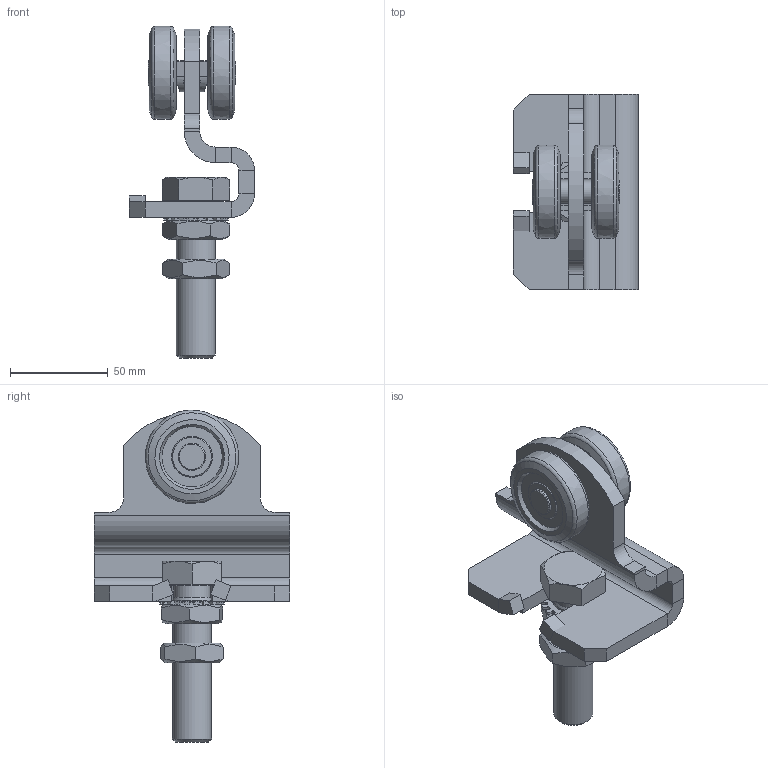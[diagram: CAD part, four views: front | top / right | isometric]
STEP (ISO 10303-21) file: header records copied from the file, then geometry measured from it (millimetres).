
FILE_DESCRIPTION(/* description */ ('Aufhaengehaken zu Einfachrolle Nr.3'),/* implementation_level */ '2;1');
FILE_NAME(/* name */ 'Q:\sge-ma\Produktmanagement-STB\STB\Workspace\stp\010336330.stp',/* time_stamp */ '2016-07-15T10:37:25+02:00',/* author */ ('avschreier'),/* organization */ (''),/* preprocessor_version */ 'ST-DEVELOPER v16.1',/* originating_system */ 'Autodesk Inventor 2016',/* authorisation */ '');
FILE_SCHEMA (('AUTOMOTIVE_DESIGN { 1 0 10303 214 3 1 1 }'));
Length unit declared in the file: millimetre
Products named in the file (8): 337000113; 000303237; 336290030; 000304012; DIN_6798-A_21_en; DIN_EN_ISO_4017-M20x80_en; DIN_EN_ISO_4035-M20_en; 010336330
Assembly tree (10 placements, depth 2):
  010336330
    337000113
    000303237  x2
    336290030  x2
    000304012
    DIN_6798-A_21_en
    DIN_EN_ISO_4017-M20x80_en
    DIN_EN_ISO_4035-M20_en  x2
Bounding box: 64 x 100 x 169.95 mm (x, y, z)
Volume: 201882.2 mm3; surface area: 61293.4 mm2
Topology: 10 solids, 10 shells, 358 faces, 906 edges, 578 vertices
Faces by surface type: plane 188, cylinder 114, cone 34, bspline 18, torus 4
Full cylindrical faces by diameter (mm): 12 x3, 14 x1, 17.294 x2, 18.647 x1, 20 x1, 21 x1, 27.7 x1
Entity records: 9871 total; most frequent: CARTESIAN_POINT 2664, DIRECTION 1532, ORIENTED_EDGE 1430, EDGE_CURVE 715, AXIS2_PLACEMENT_3D 560, VERTEX_POINT 472, LINE 412, VECTOR 412
